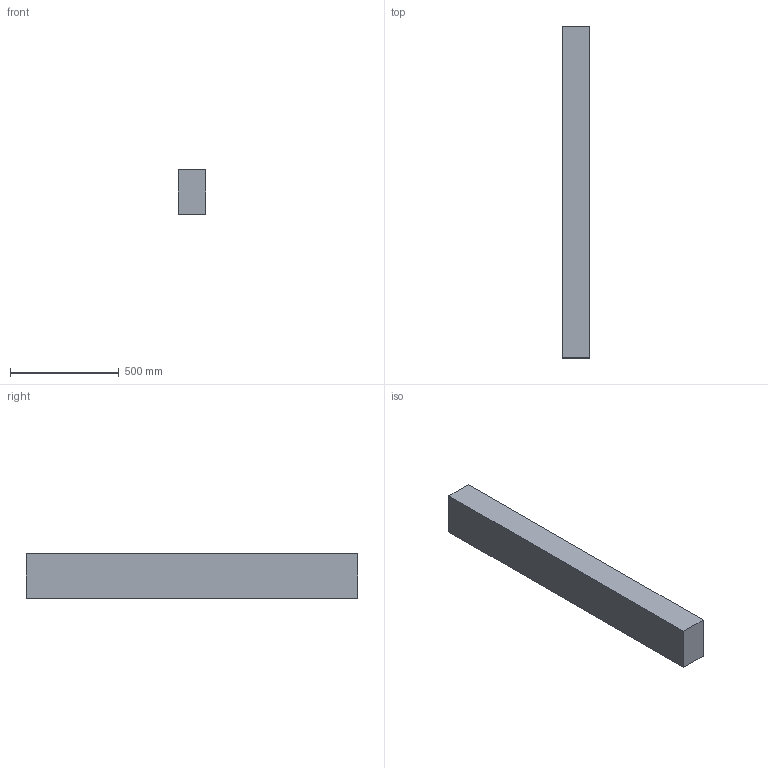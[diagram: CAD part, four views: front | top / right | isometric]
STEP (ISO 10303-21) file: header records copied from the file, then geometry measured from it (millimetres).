
FILE_DESCRIPTION(/* description */ (''),/* implementation_level */ '2;1');
FILE_NAME(/* name */ '5x8x60',/* time_stamp */ '2024-09-20T11:46:16-05:00',/* author */ (''),/* organization */ (''),/* preprocessor_version */ 'ST-DEVELOPER v19.2',/* originating_system */ 'Rhino 8.5',/* authorisation */ '');
FILE_SCHEMA (('CONFIG_CONTROL_DESIGN'));
Length unit declared in the file: inch
Products named in the file (1): Document
Bounding box: 127 x 1524 x 203.2 mm (x, y, z)
Volume: 39328953.6 mm3; surface area: 1058062.4 mm2
Topology: 1 solids, 1 shells, 6 faces, 12 edges, 8 vertices
Faces by surface type: plane 6
Entity records: 226 total; most frequent: CARTESIAN_POINT 40, ORIENTED_EDGE 24, EDGE_CURVE 12, B_SPLINE_CURVE_WITH_KNOTS 12, DIRECTION 10, VERTEX_POINT 8, AXIS2_PLACEMENT_3D 8, ORGANIZATION 7
